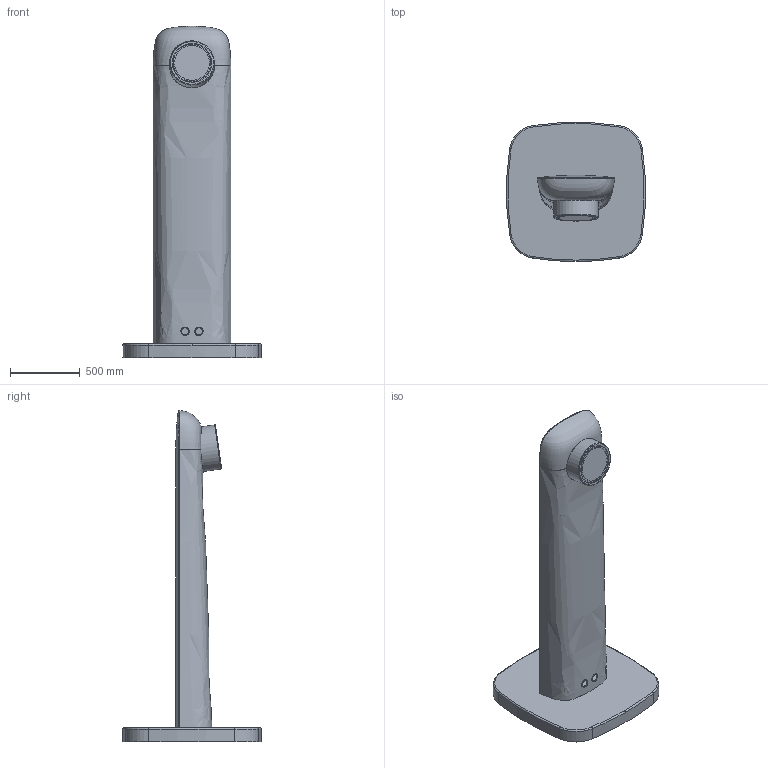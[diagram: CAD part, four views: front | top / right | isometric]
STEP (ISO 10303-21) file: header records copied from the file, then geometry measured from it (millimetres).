
FILE_DESCRIPTION(/* description */ (''),/* implementation_level */ '2;1');
FILE_NAME(/* name */ 'c:\worker\convert-fusion-r09\tmp\job-1\1\output\files\52eb435d-b22a-476b-974b-935f9c74bf9e\14ebc75f-973a-4fdd-94ea-ed7f52584c42.stp',/* time_stamp */ '2019-12-15T13:18:46+00:00',/* author */ (''),/* organization */ (''),/* preprocessor_version */ 'ST-DEVELOPER v18',/* originating_system */ 'Autodesk Translation Framework v8.12.0.6',/* authorisation */ '');
FILE_SCHEMA (('AUTOMOTIVE_DESIGN { 1 0 10303 214 3 1 1 }'));
Products named in the file (1): !Z23
Bounding box: 994.66 x 997.34 x 2379.09 mm (x, y, z)
Volume: 153871.6 mm3; surface area: 11514177.6 mm2
Topology: 21 solids, 22 shells, 501 faces, 1372 edges, 902 vertices
Faces by surface type: bspline 359, plane 44, cone 38, cylinder 36, torus 24
Full cylindrical faces by diameter (mm): 218.001 x1, 227.981 x1, 228.001 x1, 241.98 x1, 242 x1, 281.98 x1, 282 x1, 310 x1, 319.98 x1, 320 x1
Entity records: 74098 total; most frequent: CARTESIAN_POINT 63635, ORIENTED_EDGE 2744, EDGE_CURVE 1372, DIRECTION 1162, VERTEX_POINT 902, B_SPLINE_CURVE_WITH_KNOTS 698, EDGE_LOOP 512, FACE_OUTER_BOUND 501
